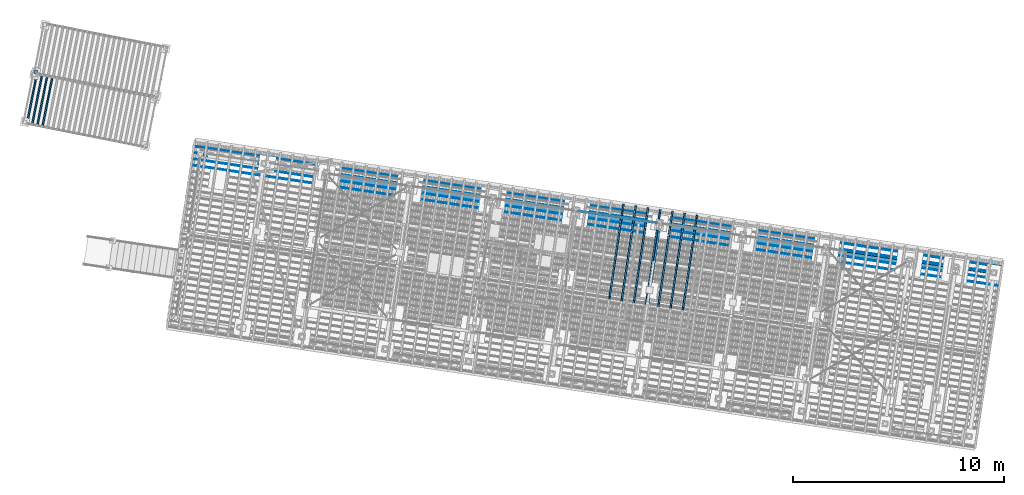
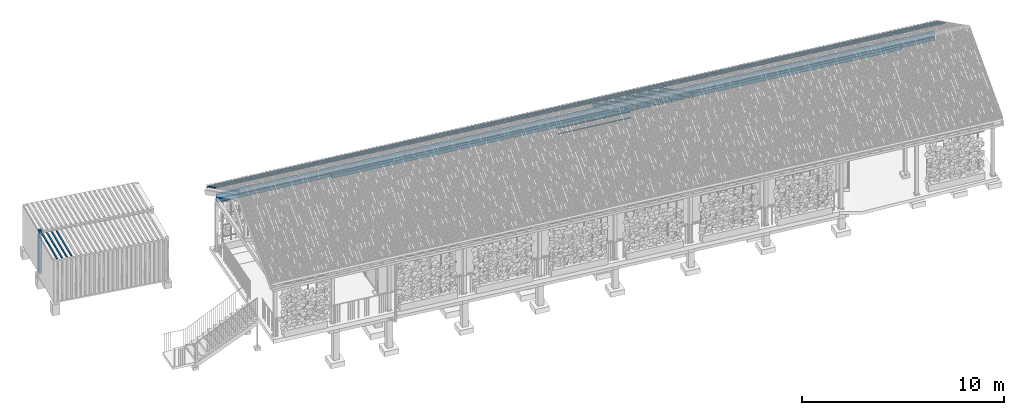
# One storey, part 81 of 131: 19 members, 3 beams, 4 elements without a shape of their own.
"""IFC4 building model written with IfcOpenShell, lengths in metres."""

from ifc_helpers import new_model, si_unit, direction, frame, origin_with_axes, place, context, subcontext, project, spatial, polyline, rectangle, outline, extrude, material, material_profile, profile_set, profile_usage, type_object, element, aggregate, save


model = new_model("IFC4")

# Units and contexts
model_context = context("Model", 3, precision=1e-05, world=origin_with_axes(), true_north=direction((0.0, 1.0)))
body_context = subcontext(model_context, "Body", "Model", "MODEL_VIEW")
ifc_project = project(units=[si_unit("AREAUNIT", "SQUARE_METRE"), si_unit("VOLUMEUNIT", "CUBIC_METRE"), si_unit("LENGTHUNIT", "METRE")], contexts=[model_context])

# Site, building, storey
site_placement = place(None, origin_with_axes())
site = spatial("IfcSite", under=ifc_project, at=site_placement, Name="Lares · Rua das Mercês · artigo 4771")
building_placement = place(site_placement, frame((15.0, 9.7, 14.65), z_axis=(0.0, 0.0, 1.0), x_axis=(0.989015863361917, -0.147809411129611, 0.0)))
building = spatial("IfcBuilding", under=site, at=building_placement, Name="Casa Sobreposta")
storey_placement = place(building_placement, origin_with_axes())
storey = spatial("IfcBuildingStorey", under=building, at=storey_placement, Name="00 · Habitação e estacionamento", Elevation=14.65)

# Beam
ifc_material_1 = material(Name="Madeira / Bauholz", Category="wood")
ifc_material_profile_1 = material_profile(ifc_material_1, rectangle(XDim=0.16, YDim=0.22))
ifc_profile_set_1 = profile_set([ifc_material_profile_1], Name="TIMBER0.160x0.220")
ifc_profile_usage_1 = profile_usage(ifc_profile_set_1)
beam_type_1 = type_object("IfcBeamType", Name="TIMBER0.160x0.220 / timber", PredefinedType="NOTDEFINED", material=ifc_profile_set_1)
beam_1_placement = place(storey_placement, frame((0.0, 6.28, 3.0), z_axis=(1.0, 0.0, 0.0), x_axis=(0.0, -1.0, 0.0)))
element("IfcBeam", 1, at=beam_1_placement, inside=storey, type_object=beam_type_1, material=ifc_profile_usage_1, Name="Cobertura · frechal longitudinal", context=body_context, shape_type="SweptSolid", body=[
    extrude(rectangle(XDim=0.16, YDim=0.22), origin_with_axes(), (0.0, 0.0, 1.0), 30.22),
])

# Assembly, beam
assembly_1_placement = place(storey_placement, origin_with_axes())
assembly_1 = element("IfcElementAssembly", 2, at=assembly_1_placement, inside=storey, Name="Varanda coberta · continuação integral da cobertura", ObjectType="COVERED_PODIUM_BALCONY", PredefinedType="USERDEFINED")
ifc_profile_usage_2 = profile_usage(ifc_profile_set_1)
beam_2_placement = place(assembly_1_placement, frame((-6.05, 6.43, 3.0), z_axis=(1.0, 0.0, 0.0), x_axis=(0.0, -1.0, 0.0)))
beam_2 = element("IfcBeam", 3, at=beam_2_placement, type_object=beam_type_1, material=ifc_profile_usage_2, Name="Varanda coberta · frechal", context=body_context, shape_type="SweptSolid", body=[
    extrude(rectangle(XDim=0.16, YDim=0.22), origin_with_axes(), (0.0, 0.0, 1.0), 38.1),
])
aggregate(assembly_1, [beam_2])

# Members
ifc_material_2 = material(Name="Aço pintado / Stahl lackiert", Category="steel")
ifc_material_profile_2 = material_profile(ifc_material_2, rectangle(XDim=0.035, YDim=0.035))
ifc_profile_set_2 = profile_set([ifc_material_profile_2], Name="R0.035")
ifc_profile_usage_3 = profile_usage(ifc_profile_set_2)
member_type_1 = type_object("IfcMemberType", Name="R0.035 / steel", PredefinedType="NOTDEFINED", material=ifc_profile_set_2)
member_1_placement = place(storey_placement, frame((12.08, 6.4, 2.35), z_axis=(1.0, 0.0, 0.0), x_axis=(0.0, -1.0, 0.0)))
element("IfcMember", 4, at=member_1_placement, inside=storey, type_object=member_type_1, material=ifc_profile_usage_3, Name="Rasgo norte 4 · travessa", context=body_context, shape_type="SweptSolid", body=[
    extrude(rectangle(XDim=0.035, YDim=0.035), origin_with_axes(), (0.0, 0.0, 1.0), 3.84),
])
ifc_profile_usage_4 = profile_usage(ifc_profile_set_2)
member_2_placement = place(storey_placement, frame((12.08, 6.4, 2.7), z_axis=(1.0, 0.0, 0.0), x_axis=(0.0, -1.0, 0.0)))
element("IfcMember", 5, at=member_2_placement, inside=storey, type_object=member_type_1, material=ifc_profile_usage_4, Name="Rasgo norte 4 · travessa", context=body_context, shape_type="SweptSolid", body=[
    extrude(rectangle(XDim=0.035, YDim=0.035), origin_with_axes(), (0.0, 0.0, 1.0), 3.84),
])

# Roof, members, beam
roof_placement = place(storey_placement, origin_with_axes())
roof = element("IfcRoof", 6, at=roof_placement, inside=storey, material=ifc_material_1, Name="Cobertura de telha · duas águas 30 graus", PredefinedType="GABLE_ROOF")
ifc_material_profile_3 = material_profile(ifc_material_1, rectangle(XDim=0.16, YDim=0.24))
ifc_profile_set_3 = profile_set([ifc_material_profile_3], Name="TIMBER0.160x0.240")
ifc_profile_usage_5 = profile_usage(ifc_profile_set_3)
member_type_2 = type_object("IfcMemberType", Name="TIMBER0.160x0.240 / timber", PredefinedType="NOTDEFINED", material=ifc_profile_set_3)
member_3_placement = place(roof_placement, frame((16.0, 2.55, 5.74420869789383), z_axis=(0.0, 0.866025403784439, -0.5), x_axis=(1.0, 0.0, 0.0)))
member_3 = element("IfcMember", 7, at=member_3_placement, type_object=member_type_2, material=ifc_profile_usage_5, Name="Tesoura · perna", context=body_context, shape_type="SweptSolid", body=[
    extrude(rectangle(XDim=0.16, YDim=0.24), origin_with_axes(), (0.0, 0.0, 1.0), 4.4802380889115),
])
ifc_material_profile_4 = material_profile(ifc_material_1, rectangle(XDim=0.08, YDim=0.24))
ifc_profile_set_4 = profile_set([ifc_material_profile_4], Name="TIMBER0.080x0.240")
ifc_profile_usage_6 = profile_usage(ifc_profile_set_4)
member_type_3 = type_object("IfcMemberType", Name="TIMBER0.080x0.240 / timber", PredefinedType="NOTDEFINED", material=ifc_profile_set_4)
member_4_placement = place(roof_placement, frame((14.1757575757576, 2.55, 5.75020869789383), z_axis=(0.0, 0.866025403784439, -0.5), x_axis=(1.0, 0.0, 0.0)))
member_4 = element("IfcMember", 8, at=member_4_placement, type_object=member_type_3, material=ifc_profile_usage_6, Name="Cobertura · caibro", context=body_context, shape_type="SweptSolid", body=[
    extrude(rectangle(XDim=0.08, YDim=0.24), origin_with_axes(), (0.0, 0.0, 1.0), 5.13841739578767),
])
ifc_profile_usage_7 = profile_usage(ifc_profile_set_4)
member_5_placement = place(roof_placement, frame((14.7636363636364, 2.55, 5.75020869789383), z_axis=(0.0, 0.866025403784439, -0.5), x_axis=(1.0, 0.0, 0.0)))
member_5 = element("IfcMember", 9, at=member_5_placement, type_object=member_type_3, material=ifc_profile_usage_7, Name="Cobertura · caibro", context=body_context, shape_type="SweptSolid", body=[
    extrude(rectangle(XDim=0.08, YDim=0.24), origin_with_axes(), (0.0, 0.0, 1.0), 5.13841739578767),
])
ifc_profile_usage_8 = profile_usage(ifc_profile_set_4)
member_6_placement = place(roof_placement, frame((15.3515151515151, 2.55, 5.75020869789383), z_axis=(0.0, 0.866025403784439, -0.5), x_axis=(1.0, 0.0, 0.0)))
member_6 = element("IfcMember", 10, at=member_6_placement, type_object=member_type_3, material=ifc_profile_usage_8, Name="Cobertura · caibro", context=body_context, shape_type="SweptSolid", body=[
    extrude(rectangle(XDim=0.08, YDim=0.24), origin_with_axes(), (0.0, 0.0, 1.0), 5.13841739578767),
])
ifc_profile_usage_9 = profile_usage(ifc_profile_set_4)
member_7_placement = place(roof_placement, frame((15.9393939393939, 2.55, 5.75020869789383), z_axis=(0.0, 0.866025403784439, -0.5), x_axis=(1.0, 0.0, 0.0)))
member_7 = element("IfcMember", 11, at=member_7_placement, type_object=member_type_3, material=ifc_profile_usage_9, Name="Cobertura · caibro", context=body_context, shape_type="SweptSolid", body=[
    extrude(rectangle(XDim=0.08, YDim=0.24), origin_with_axes(), (0.0, 0.0, 1.0), 5.13841739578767),
])
ifc_profile_usage_10 = profile_usage(ifc_profile_set_4)
member_8_placement = place(roof_placement, frame((16.5272727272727, 2.55, 5.75020869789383), z_axis=(0.0, 0.866025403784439, -0.5), x_axis=(1.0, 0.0, 0.0)))
member_8 = element("IfcMember", 12, at=member_8_placement, type_object=member_type_3, material=ifc_profile_usage_10, Name="Cobertura · caibro", context=body_context, shape_type="SweptSolid", body=[
    extrude(rectangle(XDim=0.08, YDim=0.24), origin_with_axes(), (0.0, 0.0, 1.0), 5.13841739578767),
])
ifc_profile_usage_11 = profile_usage(ifc_profile_set_4)
member_9_placement = place(roof_placement, frame((17.1151515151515, 2.55, 5.75020869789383), z_axis=(0.0, 0.866025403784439, -0.5), x_axis=(1.0, 0.0, 0.0)))
member_9 = element("IfcMember", 13, at=member_9_placement, type_object=member_type_3, material=ifc_profile_usage_11, Name="Cobertura · caibro", context=body_context, shape_type="SweptSolid", body=[
    extrude(rectangle(XDim=0.08, YDim=0.24), origin_with_axes(), (0.0, 0.0, 1.0), 5.13841739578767),
])
ifc_profile_usage_12 = profile_usage(ifc_profile_set_4)
member_10_placement = place(roof_placement, frame((17.7030303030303, 2.55, 5.75020869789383), z_axis=(0.0, 0.866025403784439, -0.5), x_axis=(1.0, 0.0, 0.0)))
member_10 = element("IfcMember", 14, at=member_10_placement, type_object=member_type_3, material=ifc_profile_usage_12, Name="Cobertura · caibro", context=body_context, shape_type="SweptSolid", body=[
    extrude(rectangle(XDim=0.08, YDim=0.24), origin_with_axes(), (0.0, 0.0, 1.0), 5.13841739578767),
])
ifc_material_profile_5 = material_profile(ifc_material_1, rectangle(XDim=0.14, YDim=0.22))
ifc_profile_set_5 = profile_set([ifc_material_profile_5], Name="TIMBER0.140x0.220")
ifc_profile_usage_13 = profile_usage(ifc_profile_set_5)
beam_type_2 = type_object("IfcBeamType", Name="TIMBER0.140x0.220 / timber", PredefinedType="NOTDEFINED", material=ifc_profile_set_5)
beam_3_placement = place(roof_placement, frame((-6.05, 6.43, 3.25908965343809), z_axis=(1.0, 0.0, 0.0), x_axis=(0.0, -1.0, 0.0)))
beam_3 = element("IfcBeam", 15, at=beam_3_placement, type_object=beam_type_2, material=ifc_profile_usage_13, Name="Cobertura · terça", context=body_context, shape_type="SweptSolid", body=[
    extrude(rectangle(XDim=0.14, YDim=0.22), origin_with_axes(), (0.0, 0.0, 1.0), 38.1),
])
ifc_material_profile_6 = material_profile(ifc_material_1, rectangle(XDim=0.045, YDim=0.06))
ifc_profile_set_6 = profile_set([ifc_material_profile_6], Name="TIMBER0.045x0.060")
ifc_profile_usage_14 = profile_usage(ifc_profile_set_6)
member_type_4 = type_object("IfcMemberType", Name="TIMBER0.045x0.060 / timber", PredefinedType="NOTDEFINED", material=ifc_profile_set_6)
member_11_placement = place(roof_placement, frame((-6.4, 5.85, 4.19795280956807), z_axis=(1.0, 0.0, 0.0), x_axis=(0.0, -1.0, 0.0)))
member_11 = element("IfcMember", 16, at=member_11_placement, type_object=member_type_4, material=ifc_profile_usage_14, Name="Cobertura · ripa ventilada", context=body_context, shape_type="SweptSolid", body=[
    extrude(rectangle(XDim=0.045, YDim=0.06), origin_with_axes(), (0.0, 0.0, 1.0), 38.8),
])
ifc_profile_usage_15 = profile_usage(ifc_profile_set_6)
member_12_placement = place(roof_placement, frame((-6.4, 6.15, 4.02474772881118), z_axis=(1.0, 0.0, 0.0), x_axis=(0.0, -1.0, 0.0)))
member_12 = element("IfcMember", 17, at=member_12_placement, type_object=member_type_4, material=ifc_profile_usage_15, Name="Cobertura · ripa ventilada", context=body_context, shape_type="SweptSolid", body=[
    extrude(rectangle(XDim=0.045, YDim=0.06), origin_with_axes(), (0.0, 0.0, 1.0), 38.8),
])
ifc_profile_usage_16 = profile_usage(ifc_profile_set_6)
member_13_placement = place(roof_placement, frame((-6.4, 6.45, 3.8515426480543), z_axis=(1.0, 0.0, 0.0), x_axis=(0.0, -1.0, 0.0)))
member_13 = element("IfcMember", 18, at=member_13_placement, type_object=member_type_4, material=ifc_profile_usage_16, Name="Cobertura · ripa ventilada", context=body_context, shape_type="SweptSolid", body=[
    extrude(rectangle(XDim=0.045, YDim=0.06), origin_with_axes(), (0.0, 0.0, 1.0), 38.8),
])
ifc_profile_usage_17 = profile_usage(ifc_profile_set_6)
member_14_placement = place(roof_placement, frame((-6.4, 6.75, 3.67833756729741), z_axis=(1.0, 0.0, 0.0), x_axis=(0.0, -1.0, 0.0)))
member_14 = element("IfcMember", 19, at=member_14_placement, type_object=member_type_4, material=ifc_profile_usage_17, Name="Cobertura · ripa ventilada", context=body_context, shape_type="SweptSolid", body=[
    extrude(rectangle(XDim=0.045, YDim=0.06), origin_with_axes(), (0.0, 0.0, 1.0), 38.8),
])
aggregate(roof, [member_3, member_4, member_5, member_6, member_7, member_8, member_9, member_10, beam_3, member_11, member_12, member_13, member_14])

# Assembly, member
assembly_2_placement = place(storey_placement, frame((-14.4335953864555, 9.04888612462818, 0.0), z_axis=(0.0, 0.0, 1.0), x_axis=(0.999032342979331, -0.0439815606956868, 0.0)))
assembly_2 = element("IfcElementAssembly", 20, at=assembly_2_placement, inside=storey, Name="Contentor existente 1 · 6 m", ObjectType="EXISTING_SHIPPING_CONTAINER", PredefinedType="USERDEFINED")
ifc_material_3 = material(Name="Contentor · pintura 1", Category="steel")
member_15_placement = place(assembly_2_placement, frame((0.0, 0.0, -1.01314181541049), z_axis=(0.0, 0.0, 1.0), x_axis=(1.0, 0.0, 0.0)))
member_15 = element("IfcMember", 21, at=member_15_placement, material=ifc_material_3, Name="Contentor · canto", context=body_context, shape_type="SweptSolid", body=[
    extrude(outline(polyline([(0.16, 0.0), (0.16, 0.16), (0.0, 0.16), (0.0, 0.0), (0.16, 0.0)])), origin_with_axes(), (0.0, 0.0, 1.0), 2.59),
])
aggregate(assembly_2, [member_15])

# Assembly, members
assembly_3_placement = place(storey_placement, frame((-14.5932944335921, 6.63122214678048, 0.0), z_axis=(0.0, 0.0, 1.0), x_axis=(0.998832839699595, -0.0483007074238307, 0.0)))
assembly_3 = element("IfcElementAssembly", 22, at=assembly_3_placement, inside=storey, Name="Contentor existente 2 · 6 m", ObjectType="EXISTING_SHIPPING_CONTAINER", PredefinedType="USERDEFINED")
ifc_material_4 = material(Name="Contentor · pintura 2", Category="steel")
member_16_placement = place(assembly_3_placement, frame((0.0, 0.0, 1.41624830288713), z_axis=(0.0, 0.0, 1.0), x_axis=(1.0, 0.0, 0.0)))
member_16 = element("IfcMember", 23, at=member_16_placement, material=ifc_material_4, Name="Contentor · nervura cobertura", context=body_context, shape_type="SweptSolid", body=[
    extrude(outline(polyline([(0.23, 0.08), (0.23, 2.36), (0.15, 2.36), (0.15, 0.08), (0.23, 0.08)])), origin_with_axes(), (0.0, 0.0, 1.0), 0.018),
])
member_17_placement = place(assembly_3_placement, frame((0.0, 0.0, 1.41624830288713), z_axis=(0.0, 0.0, 1.0), x_axis=(1.0, 0.0, 0.0)))
member_17 = element("IfcMember", 24, at=member_17_placement, material=ifc_material_4, Name="Contentor · nervura cobertura", context=body_context, shape_type="SweptSolid", body=[
    extrude(outline(polyline([(0.48, 0.08), (0.48, 2.36), (0.4, 2.36), (0.4, 0.08), (0.48, 0.08)])), origin_with_axes(), (0.0, 0.0, 1.0), 0.018),
])
member_18_placement = place(assembly_3_placement, frame((0.0, 0.0, 1.41624830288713), z_axis=(0.0, 0.0, 1.0), x_axis=(1.0, 0.0, 0.0)))
member_18 = element("IfcMember", 25, at=member_18_placement, material=ifc_material_4, Name="Contentor · nervura cobertura", context=body_context, shape_type="SweptSolid", body=[
    extrude(outline(polyline([(0.73, 0.08), (0.73, 2.36), (0.65, 2.36), (0.65, 0.08), (0.73, 0.08)])), origin_with_axes(), (0.0, 0.0, 1.0), 0.018),
])
member_19_placement = place(assembly_3_placement, frame((0.0, 0.0, 1.41624830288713), z_axis=(0.0, 0.0, 1.0), x_axis=(1.0, 0.0, 0.0)))
member_19 = element("IfcMember", 26, at=member_19_placement, material=ifc_material_4, Name="Contentor · nervura cobertura", context=body_context, shape_type="SweptSolid", body=[
    extrude(outline(polyline([(0.98, 0.08), (0.98, 2.36), (0.9, 2.36), (0.9, 0.08), (0.98, 0.08)])), origin_with_axes(), (0.0, 0.0, 1.0), 0.018),
])
aggregate(assembly_3, [member_16, member_17, member_18, member_19])

save(model, "model.ifc")
